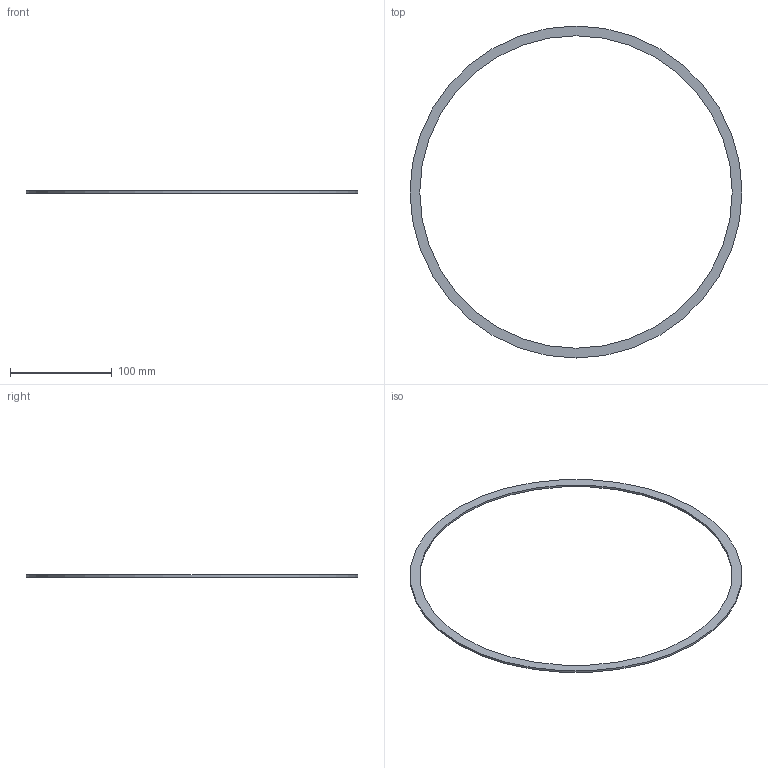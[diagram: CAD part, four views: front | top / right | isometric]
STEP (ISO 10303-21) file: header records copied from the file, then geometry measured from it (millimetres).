
FILE_DESCRIPTION((''),'2;1');
FILE_NAME('W:\13785_CF_Global_Fit_Umsetzung\227_Copper_Gasket\M213-458.stp','2010-09-01T15:37:44',('KAA'),(''),'Autodesk Inventor 2011','Autodesk Inventor 2011','');
FILE_SCHEMA(('AUTOMOTIVE_DESIGN { 1 0 10303 214 1 1 1 1 }'));
Length unit declared in the file: millimetre
Products named in the file (1): 213-458
Bounding box: 326.2 x 326.2 x 2 mm (x, y, z)
Volume: 19096.9 mm3; surface area: 23075.4 mm2
Topology: 1 solids, 1 shells, 4 faces, 6 edges, 4 vertices
Faces by surface type: cylinder 2, plane 2
Full cylindrical faces by diameter (mm): 307 x1, 326.2 x1
Entity records: 114 total; most frequent: DIRECTION 18, CARTESIAN_POINT 13, AXIS2_PLACEMENT_3D 9, ORIENTED_EDGE 8, EDGE_LOOP 8, VERTEX_POINT 4, CIRCLE 4, EDGE_CURVE 4
